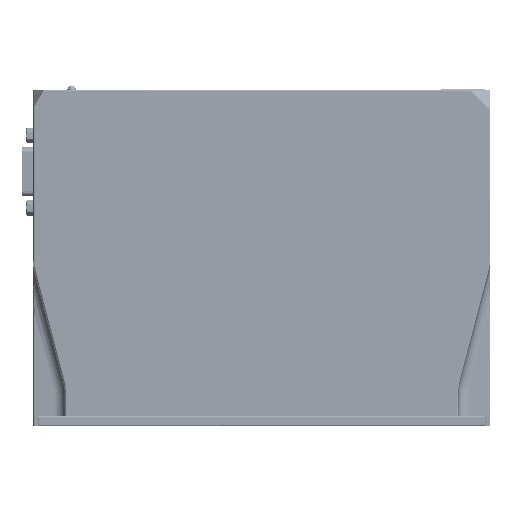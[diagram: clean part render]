
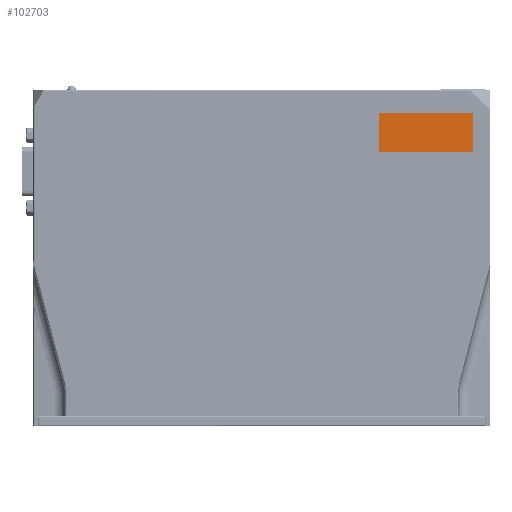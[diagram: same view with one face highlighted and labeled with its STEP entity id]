
A CAD part, left-side view. The second image highlights one B-rep face of the part: STEP entity #102703.
In plain terms, the highlighted planar face has unit normal (-1, 0, 0).
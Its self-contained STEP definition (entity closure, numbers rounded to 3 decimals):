
#15296=DIRECTION('',(0.,1.,0.));
#15297=VECTOR('',#15296,32.5);
#15298=CARTESIAN_POINT('',(-29.7,-73.,108.5));
#15299=LINE('',#15298,#15297);
#15304=DIRECTION('',(0.,0.,-1.));
#15305=VECTOR('',#15304,13.5);
#15306=CARTESIAN_POINT('',(-29.7,-40.5,108.5));
#15307=LINE('',#15306,#15305);
#15312=DIRECTION('',(0.,-1.,0.));
#15313=VECTOR('',#15312,32.5);
#15314=CARTESIAN_POINT('',(-29.7,-40.5,95.));
#15315=LINE('',#15314,#15313);
#15320=DIRECTION('',(0.,0.,1.));
#15321=VECTOR('',#15320,13.5);
#15322=CARTESIAN_POINT('',(-29.7,-73.,95.));
#15323=LINE('',#15322,#15321);
#73351=CARTESIAN_POINT('',(-29.7,-40.5,108.5));
#73352=VERTEX_POINT('',#73351);
#73353=CARTESIAN_POINT('',(-29.7,-73.,108.5));
#73354=VERTEX_POINT('',#73353);
#73355=CARTESIAN_POINT('',(-29.7,-40.5,95.));
#73356=VERTEX_POINT('',#73355);
#73357=CARTESIAN_POINT('',(-29.7,-73.,95.));
#73358=VERTEX_POINT('',#73357);
#102692=CARTESIAN_POINT('',(-29.7,0.,0.));
#102693=DIRECTION('',(-1.,0.,0.));
#102694=DIRECTION('',(0.,1.,0.));
#102695=AXIS2_PLACEMENT_3D('',#102692,#102693,#102694);
#102696=PLANE('',#102695);
#102697=ORIENTED_EDGE('',*,*,#102660,.F.);
#102698=ORIENTED_EDGE('',*,*,#102639,.F.);
#102699=ORIENTED_EDGE('',*,*,#102618,.F.);
#102700=ORIENTED_EDGE('',*,*,#102680,.F.);
#102701=EDGE_LOOP('',(#102697,#102698,#102699,#102700));
#102702=FACE_OUTER_BOUND('',#102701,.F.);
#102703=ADVANCED_FACE('',(#102702),#102696,.T.);
#102618=EDGE_CURVE('',#73354,#73352,#15299,.T.);
#102639=EDGE_CURVE('',#73352,#73356,#15307,.T.);
#102660=EDGE_CURVE('',#73356,#73358,#15315,.T.);
#102680=EDGE_CURVE('',#73358,#73354,#15323,.T.);
